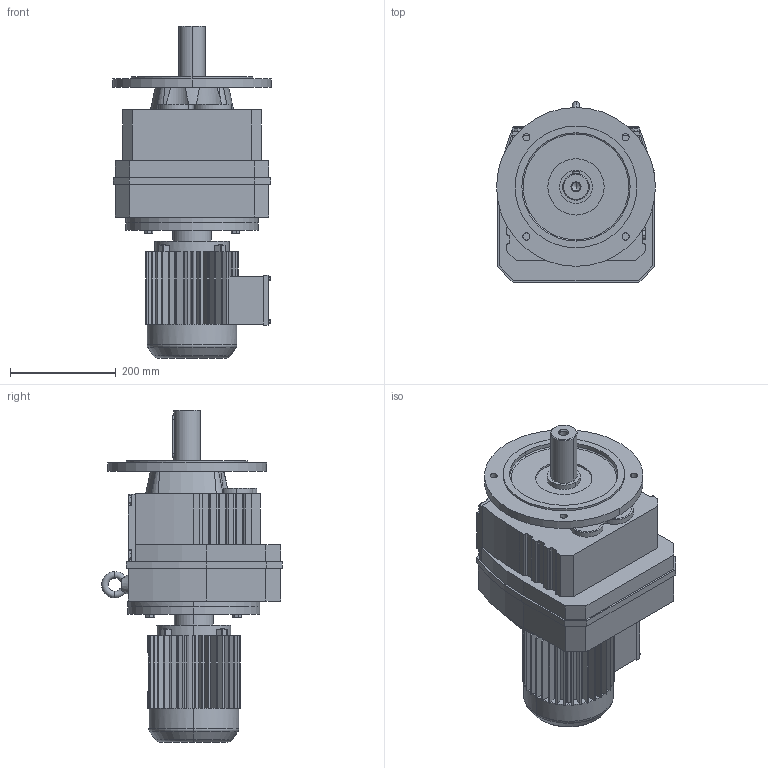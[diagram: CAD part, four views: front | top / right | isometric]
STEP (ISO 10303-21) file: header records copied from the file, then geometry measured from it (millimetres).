
FILE_DESCRIPTION(('Open CASCADE Model'),'2;1');
FILE_NAME('Open CASCADE Shape Model','2018-09-12T08:45:51',('Author'),( 'Open CASCADE'),'Open CASCADE STEP processor 6.3','Open CASCADE 6.3' ,'Unknown');
FILE_SCHEMA(('AUTOMOTIVE_DESIGN_CC2 { 1 2 10303 214 -1 1 5 4 }'));
Length unit declared in the file: millimetre
Products named in the file (3): 243_RF87-Y80M-300; RF37‵167_87_300.step; 萇儂_250_Y80M.step
Assembly tree (2 placements, depth 2):
  243_RF87-Y80M-300
    RF37‵167_87_300.step
    萇儂_250_Y80M.step
Bounding box: 300 x 341.5 x 627 mm (x, y, z)
Volume: 22748313.5 mm3; surface area: 1011848.9 mm2
Topology: 2 solids, 2 shells, 740 faces, 1959 edges, 1264 vertices
Faces by surface type: plane 517, cylinder 191, cone 20, torus 12
Entity records: 51813 total; most frequent: CARTESIAN_POINT 14438, DIRECTION 6515, ORIENTED_EDGE 3914, PCURVE 3914, DEFINITIONAL_REPRESENTATION 3914, LINE 3568, VECTOR 3568, EDGE_CURVE 1957
